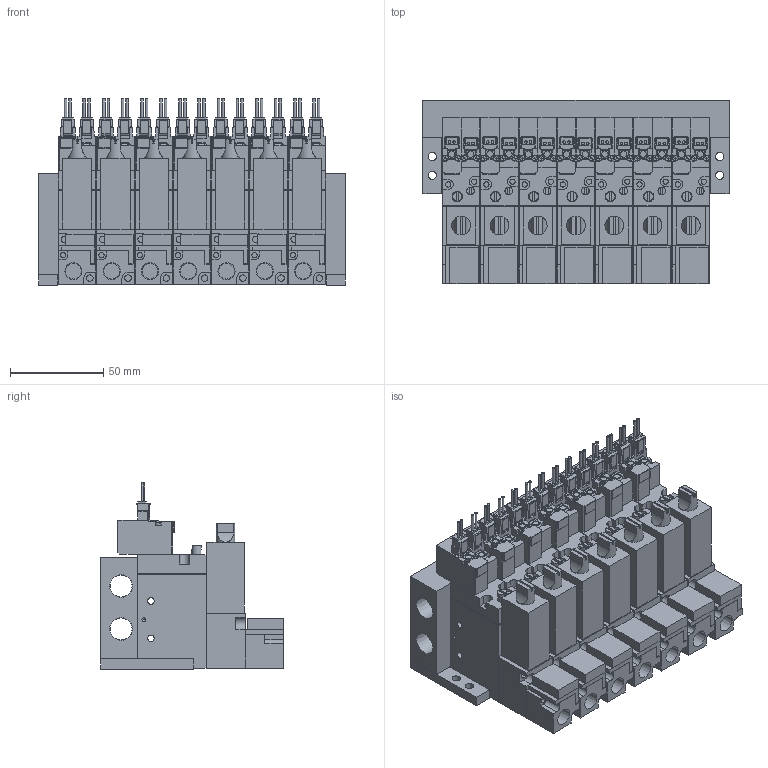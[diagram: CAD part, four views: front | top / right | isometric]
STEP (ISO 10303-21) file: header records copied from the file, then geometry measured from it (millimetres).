
FILE_DESCRIPTION(('STEP AP203'),'1');
FILE_NAME('BMPV32M2NZ25AL707.stp','2025-06-17T01:43:54',(' '),(' '),'Spatial InterOp 3D',' ',' ');
FILE_SCHEMA(('CONFIG_CONTROL_DESIGN'));
Length unit declared in the file: millimetre
Products named in the file (88): BMPV32M2NZ25AL707; S____; ___ ___2; ___-2(Rc); Filter Assy; __; _____; MB BRACKET; BMPV32 MB07; ___; upper plate-A; ______; ____; VACUUM VALVE FUNCTION MPV42-A; UV280-4E
Assembly tree (87 placements, depth 2):
  BMPV32M2NZ25AL707
    S____
    ___ ___2
    ___-2(Rc)
    Filter Assy
    __
    _____
    S____
    ___ ___2
    ___-2(Rc)
    Filter Assy
    __
    _____
    S____
    ___ ___2
    ___-2(Rc)
    Filter Assy
    __
    _____
    S____
    ___ ___2
    ___-2(Rc)
    Filter Assy
    __
    _____
    S____
    ___ ___2
    ___-2(Rc)
    Filter Assy
    __
    _____
    S____
    ___ ___2
    ___-2(Rc)
    Filter Assy
    __
    _____
    MB BRACKET
    MB BRACKET
    BMPV32 MB07
    S____
    ___ ___2
    ___-2(Rc)
    Filter Assy
    __
    _____
    ___
    upper plate-A
    ______
    ____
    VACUUM VALVE FUNCTION MPV42-A
    ___
    upper plate-A
    ______
    ____
    VACUUM VALVE FUNCTION MPV42-A
    ___
    upper plate-A
    ______
    ____
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Bounding box: 164 x 98 x 99.75 mm (x, y, z)
Volume: 749075.2 mm3; surface area: 254583.1 mm2
Topology: 87 solids, 87 shells, 2560 faces, 6722 edges, 4453 vertices
Faces by surface type: plane 2079, cylinder 431, cone 50
Full cylindrical faces by diameter (mm): 1.4 x28, 1.8 x14, 2 x14, 2.5 x18, 2.8 x28, 3 x28, 3.5 x74, 4 x7, 4.2 x7, 4.5 x4, 5 x7, 5.5 x7, 6.5 x6, 8.522 x7, 11.776 x2
Entity records: 81017 total; most frequent: CARTESIAN_POINT 13854, DIRECTION 12663, ORIENTED_EDGE 12610, EDGE_CURVE 6305, LINE 5187, VECTOR 5187, VERTEX_POINT 4383, AXIS2_PLACEMENT_3D 3738
